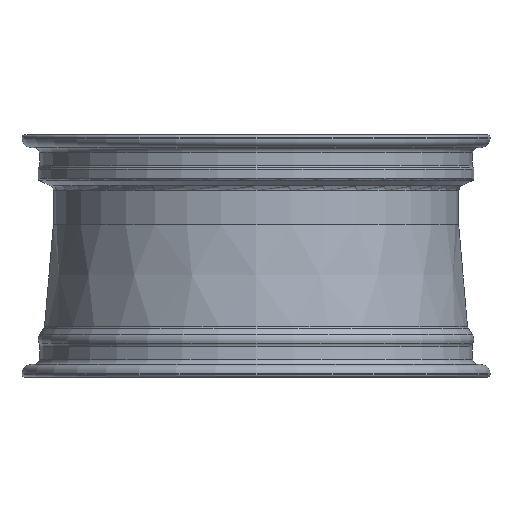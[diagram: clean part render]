
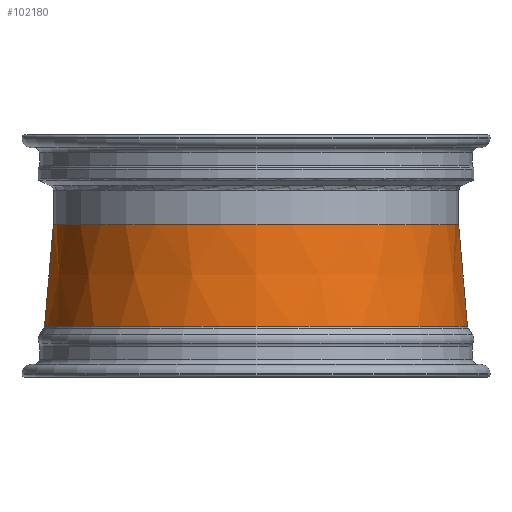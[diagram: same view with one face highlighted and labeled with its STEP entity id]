
A CAD part, front view. The second image highlights one B-rep face of the part: STEP entity #102180.
In plain terms, the highlighted conical face has half-angle 4.97 degrees and reference radius 230.933 mm.
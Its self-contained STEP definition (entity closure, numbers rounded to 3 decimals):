
#10939 = AXIS2_PLACEMENT_3D ( 'NONE', #116090, #151128, #71640 ) ;
#16117 = VERTEX_POINT ( 'NONE', #38008 ) ;
#17310 = VECTOR ( 'NONE', #58767, 1000. ) ;
#17862 = VECTOR ( 'NONE', #156461, 1000. ) ;
#32352 = CIRCLE ( 'NONE', #85083, 235.866 ) ;
#33376 = ORIENTED_EDGE ( 'NONE', *, *, #140433, .T. ) ;
#38008 = CARTESIAN_POINT ( 'NONE',  ( 226., 0., 35. ) ) ;
#40979 = AXIS2_PLACEMENT_3D ( 'NONE', #164978, #72025, #130954 ) ;
#45759 = DIRECTION ( 'NONE',  ( 0., 0., 1. ) ) ;
#52440 = CARTESIAN_POINT ( 'NONE',  ( -235.866, 0., -78.463 ) ) ;
#58767 = DIRECTION ( 'NONE',  ( 0.087, 0., -0.996 ) ) ;
#59410 = CARTESIAN_POINT ( 'NONE',  ( 235.866, 0., -78.463 ) ) ;
#61311 = ORIENTED_EDGE ( 'NONE', *, *, #146400, .F. ) ;
#71640 = DIRECTION ( 'NONE',  ( -1., 0., 0. ) ) ;
#72025 = DIRECTION ( 'NONE',  ( 0., 0., 1. ) ) ;
#76741 = CARTESIAN_POINT ( 'NONE',  ( 0., 0., -78.463 ) ) ;
#85083 = AXIS2_PLACEMENT_3D ( 'NONE', #76741, #45759, #122210 ) ;
#92522 = EDGE_CURVE ( 'NONE', #16117, #188434, #200224, .T. ) ;
#99982 = CONICAL_SURFACE ( 'NONE', #10939, 230.933, 0.087 ) ;
#102180 = ADVANCED_FACE ( 'NONE', ( #102628 ), #99982, .T. ) ;
#102628 = FACE_OUTER_BOUND ( 'NONE', #153588, .T. ) ;
#107952 = LINE ( 'NONE', #139952, #17862 ) ;
#116090 = CARTESIAN_POINT ( 'NONE',  ( 0., 0., -21.731 ) ) ;
#122210 = DIRECTION ( 'NONE',  ( 1., 0., 0. ) ) ;
#130170 = CIRCLE ( 'NONE', #40979, 226. ) ;
#130954 = DIRECTION ( 'NONE',  ( 1., 0., 0. ) ) ;
#132758 = VERTEX_POINT ( 'NONE', #175674 ) ;
#139952 = CARTESIAN_POINT ( 'NONE',  ( -230.933, 0., -21.731 ) ) ;
#140433 = EDGE_CURVE ( 'NONE', #132758, #194076, #107952, .T. ) ;
#146400 = EDGE_CURVE ( 'NONE', #132758, #16117, #130170, .T. ) ;
#151128 = DIRECTION ( 'NONE',  ( 0., 0., -1. ) ) ;
#153588 = EDGE_LOOP ( 'NONE', ( #203682, #61311, #33376, #184086 ) ) ;
#156461 = DIRECTION ( 'NONE',  ( -0.087, 0., -0.996 ) ) ;
#164978 = CARTESIAN_POINT ( 'NONE',  ( 0., 0., 35. ) ) ;
#170264 = CARTESIAN_POINT ( 'NONE',  ( 230.933, 0., -21.731 ) ) ;
#175674 = CARTESIAN_POINT ( 'NONE',  ( -226., 0., 35. ) ) ;
#184086 = ORIENTED_EDGE ( 'NONE', *, *, #204137, .T. ) ;
#188434 = VERTEX_POINT ( 'NONE', #59410 ) ;
#194076 = VERTEX_POINT ( 'NONE', #52440 ) ;
#200224 = LINE ( 'NONE', #170264, #17310 ) ;
#203682 = ORIENTED_EDGE ( 'NONE', *, *, #92522, .F. ) ;
#204137 = EDGE_CURVE ( 'NONE', #194076, #188434, #32352, .T. ) ;
